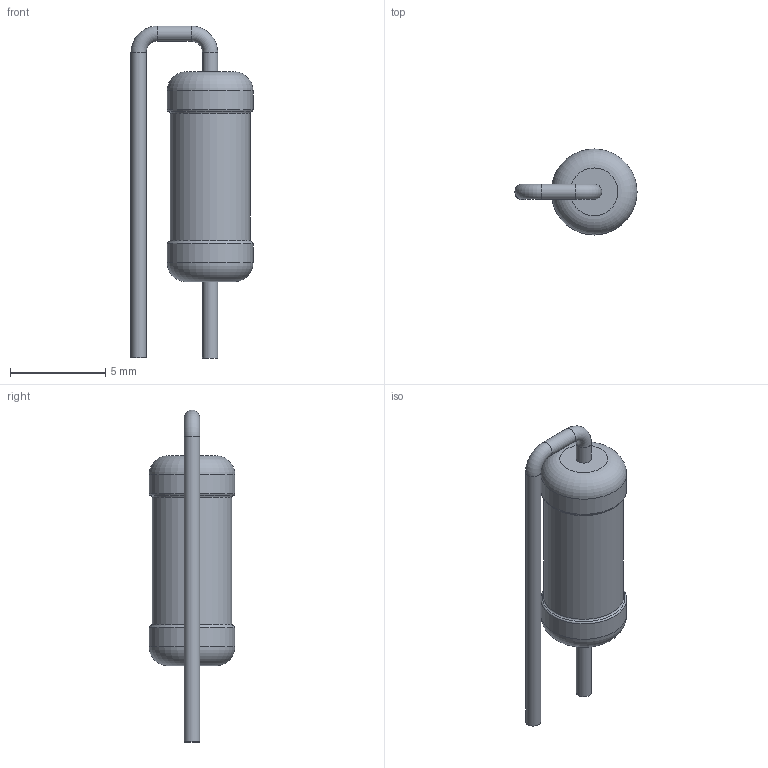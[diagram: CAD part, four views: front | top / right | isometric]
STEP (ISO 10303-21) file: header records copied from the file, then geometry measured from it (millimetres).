
FILE_DESCRIPTION(('STEP AP203'), '1');
FILE_NAME('栖闉罻', '', ('UNSPECIFIED'), ('UNSPECIFIED'), 'ASCON STEP Converter 1.6', 'ASCON Math Kernel', '');
FILE_SCHEMA(('CONFIG_CONTROL_DESIGN'));
Length unit declared in the file: millimetre
Assembly tree (1 placements, depth 2):
  (unnamed)
    (unnamed)
Bounding box: 6.4 x 4.5 x 17.4 mm (x, y, z)
Volume: 167.8 mm3; surface area: 234.7 mm2
Topology: 1 solids, 1 shells, 19 faces, 33 edges, 18 vertices
Faces by surface type: torus 8, cylinder 7, plane 4
Full cylindrical faces by diameter (mm): 0.8 x4, 4.184 x1, 4.5 x2
Entity records: 620 total; most frequent: DIRECTION 78, CARTESIAN_POINT 57, AXIS2_PLACEMENT_3D 39, EDGE_LOOP 36, ORIENTED_EDGE 36, FACE_OUTER_BOUND 30, COLOUR_RGB 20, FILL_AREA_STYLE_COLOUR 20
